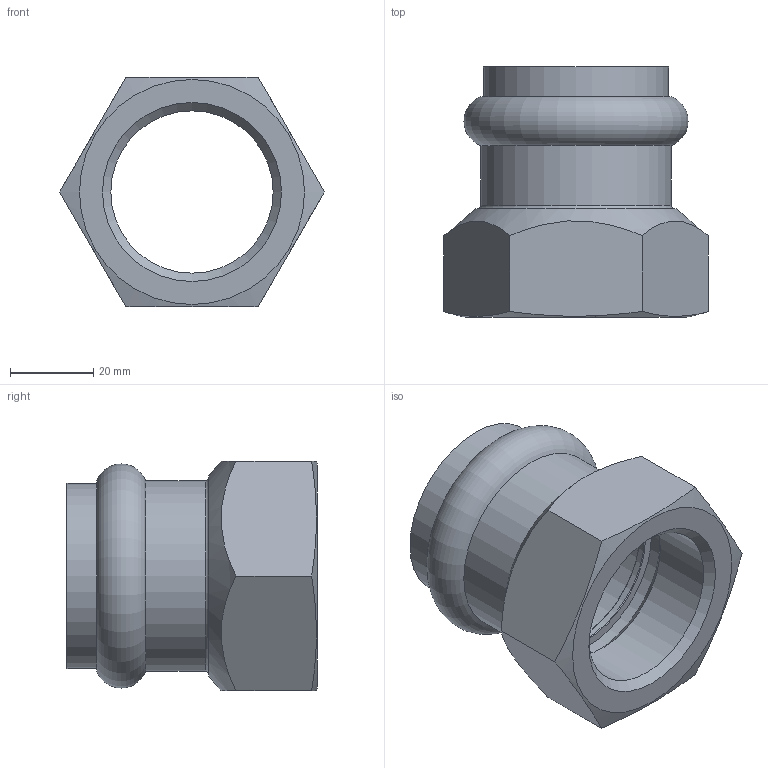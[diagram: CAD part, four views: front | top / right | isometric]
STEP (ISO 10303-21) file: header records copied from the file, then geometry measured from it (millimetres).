
FILE_DESCRIPTION(/* description */ (''),/* implementation_level */ '2;1');
FILE_NAME(/* name */ 'C:\Users\Vault\Desktop\Articoli_INOXPRES UNIKO\190_INOXPRES_UNIKO\190114042U_Inoxpres_Uniko.stp',/* time_stamp */ '2022-10-06T11:35:35+02:00',/* author */ ('Vault'),/* organization */ ('Raccorderie metalliche s.p.a. '),/* preprocessor_version */ 'ST-DEVELOPER v18.1',/* originating_system */ 'Autodesk Inventor 2020',/* authorisation */ 'Raccorderie metalliche s.p.a. ');
FILE_SCHEMA (('AUTOMOTIVE_DESIGN { 1 0 10303 214 3 1 1 }'));
Length unit declared in the file: millimetre
Products named in the file (1): 190114042V_Inoxpres_Uniko
Bounding box: 63.51 x 60 x 55 mm (x, y, z)
Volume: 44879.7 mm3; surface area: 20895.7 mm2
Topology: 1 solids, 1 shells, 31 faces, 83 edges, 58 vertices
Faces by surface type: plane 12, cone 8, cylinder 7, torus 4
Full cylindrical faces by diameter (mm): 38.952 x1, 39 x1, 42.6 x2, 43.5 x1, 44.4 x1, 45.6 x1
Entity records: 1040 total; most frequent: CARTESIAN_POINT 201, DIRECTION 181, ORIENTED_EDGE 166, EDGE_CURVE 83, AXIS2_PLACEMENT_3D 80, VERTEX_POINT 58, CIRCLE 48, EDGE_LOOP 37
